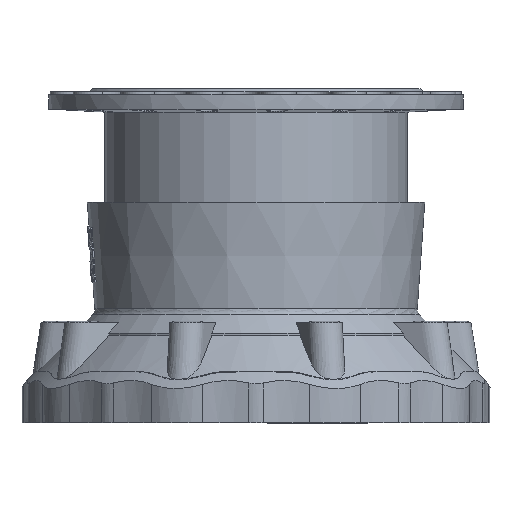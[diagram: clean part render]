
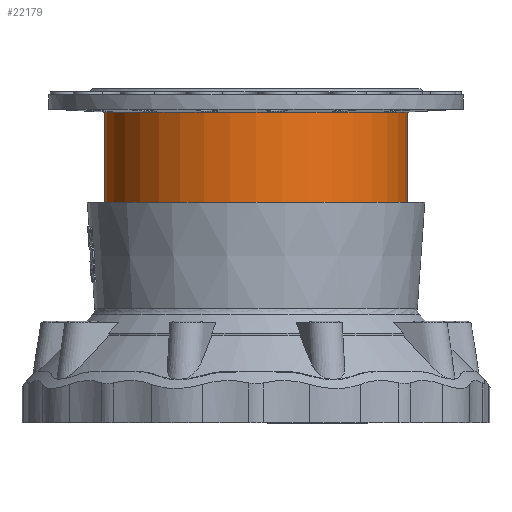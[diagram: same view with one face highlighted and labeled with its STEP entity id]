
A CAD part, front view. The second image highlights one B-rep face of the part: STEP entity #22179.
In plain terms, the highlighted cylindrical face has radius 197 mm (diameter 394 mm), a full revolution.
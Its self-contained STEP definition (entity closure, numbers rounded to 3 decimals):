
#5809 = CARTESIAN_POINT ( 'NONE',  ( 0., 0., 164.45 ) ) ;
#5810 = DIRECTION ( 'NONE',  ( 0., 0., 1. ) ) ;
#5811 = DIRECTION ( 'NONE',  ( 1., 0., 0. ) ) ;
#6521 = ORIENTED_EDGE ( 'NONE', *, *, #16690, .F. ) ;
#6522 = ORIENTED_EDGE ( 'NONE', *, *, #16977, .T. ) ;
#6653 = EDGE_LOOP ( 'NONE', ( #6521 ) ) ;
#6833 = EDGE_LOOP ( 'NONE', ( #6522 ) ) ;
#8295 = CARTESIAN_POINT ( 'NONE',  ( 197., 0., 164.45 ) ) ;
#8304 = CARTESIAN_POINT ( 'NONE',  ( 197., 0., 46.95 ) ) ;
#9473 = CIRCLE ( 'NONE', #22534, 197. ) ;
#9691 = CIRCLE ( 'NONE', #22655, 197. ) ;
#12191 = FACE_OUTER_BOUND ( 'NONE', #6653, .T. ) ;
#12202 = FACE_OUTER_BOUND ( 'NONE', #6833, .T. ) ;
#12205 = CYLINDRICAL_SURFACE ( 'NONE', #13036, 197. ) ;
#12530 = CARTESIAN_POINT ( 'NONE',  ( 0., 0., 46.95 ) ) ;
#12532 = DIRECTION ( 'NONE',  ( 0., 0., 1. ) ) ;
#12533 = DIRECTION ( 'NONE',  ( 1., 0., 0. ) ) ;
#12549 = VERTEX_POINT ( 'NONE', #8295 ) ;
#12565 = VERTEX_POINT ( 'NONE', #8304 ) ;
#13036 = AXIS2_PLACEMENT_3D ( 'NONE', #16042, #16044, #16041 ) ;
#16041 = DIRECTION ( 'NONE',  ( 1., 0., 0. ) ) ;
#16042 = CARTESIAN_POINT ( 'NONE',  ( 0., 0., 198.352 ) ) ;
#16044 = DIRECTION ( 'NONE',  ( 0., 0., 1. ) ) ;
#16690 = EDGE_CURVE ( 'NONE', #12549, #12549, #9473, .T. ) ;
#16977 = EDGE_CURVE ( 'NONE', #12565, #12565, #9691, .T. ) ;
#22179 = ADVANCED_FACE ( 'NONE', ( #12191, #12202 ), #12205, .T. ) ;
#22534 = AXIS2_PLACEMENT_3D ( 'NONE', #5809, #5810, #5811 ) ;
#22655 = AXIS2_PLACEMENT_3D ( 'NONE', #12530, #12532, #12533 ) ;
